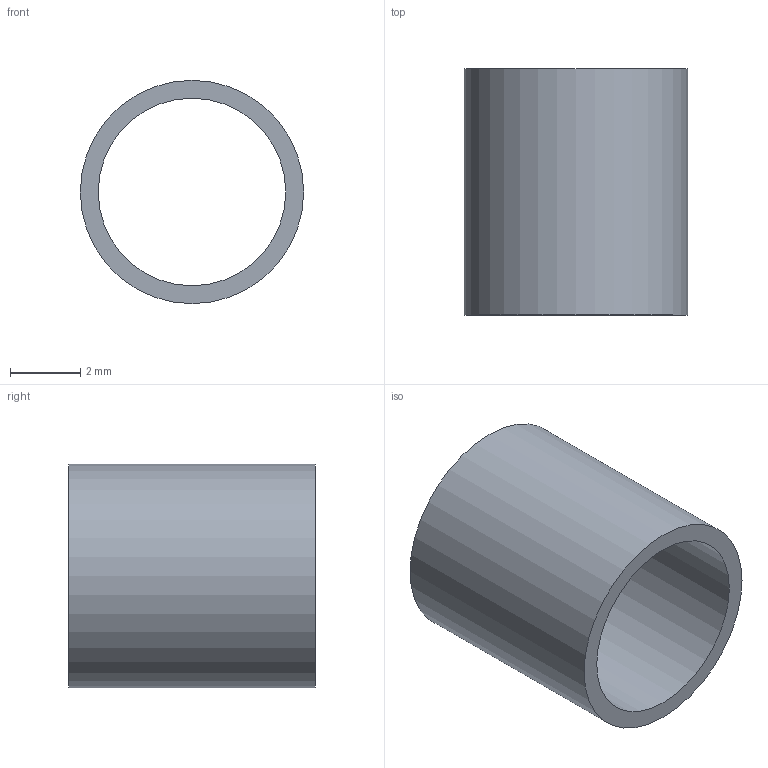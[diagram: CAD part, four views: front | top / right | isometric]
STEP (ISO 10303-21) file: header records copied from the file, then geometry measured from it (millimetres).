
FILE_DESCRIPTION(('Open CASCADE Model'),'2;1');
FILE_NAME('Open CASCADE Shape Model','2026-10-06T03:35:42',('Author'),( 'Open CASCADE'),'Open CASCADE STEP processor 7.8','Open CASCADE 7.8' ,'Unknown');
FILE_SCHEMA(('AUTOMOTIVE_DESIGN { 1 0 10303 214 1 1 1 1 }'));
Length unit declared in the file: millimetre
Products named in the file (1): Open CASCADE STEP translator 7.8 11
Bounding box: 6.35 x 7 x 6.35 mm (x, y, z)
Volume: 65.5 mm3; surface area: 275.6 mm2
Topology: 1 solids, 1 shells, 4 faces, 6 edges, 4 vertices
Faces by surface type: cylinder 2, plane 2
Full cylindrical faces by diameter (mm): 5.33 x1, 6.35 x1
Entity records: 189 total; most frequent: CARTESIAN_POINT 33, DIRECTION 31, ORIENTED_EDGE 12, PCURVE 12, DEFINITIONAL_REPRESENTATION 12, LINE 10, VECTOR 10, AXIS2_PLACEMENT_3D 9
